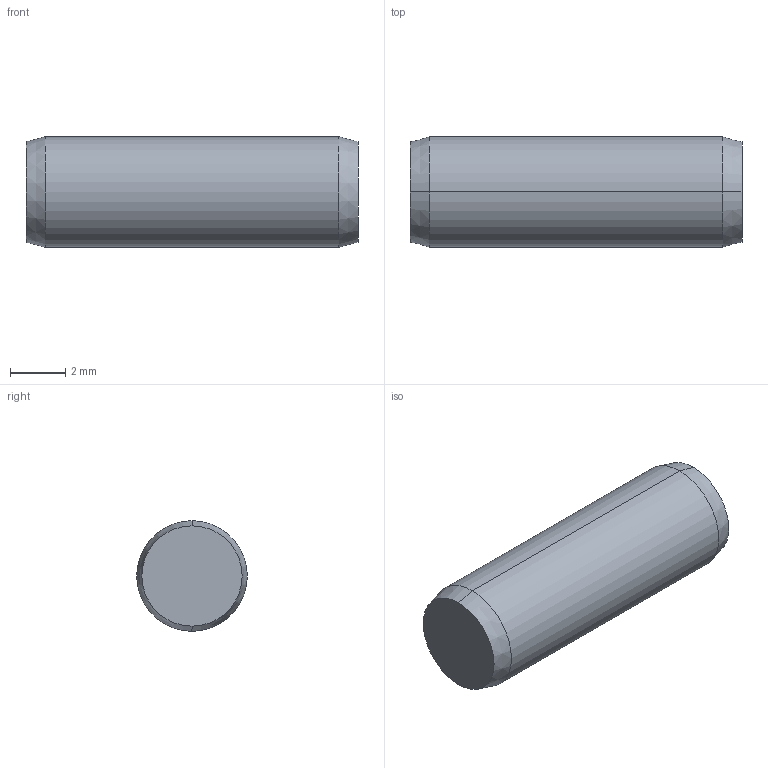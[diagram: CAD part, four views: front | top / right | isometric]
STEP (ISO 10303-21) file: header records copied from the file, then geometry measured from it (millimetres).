
FILE_DESCRIPTION (( 'STEP AP203' ), '1' );
FILE_NAME ('P1206.040-012.step', '2017-06-14T08:09:19', ( 'User' ), ( '' ), 'SwSTEP 2.0', 'SolidWorks 2009', '' );
FILE_SCHEMA (( 'CONFIG_CONTROL_DESIGN' ));
Length unit declared in the file: millimetre
Products named in the file (1): P1206.040-012
Bounding box: 12 x 4 x 4 mm (x, y, z)
Volume: 149.2 mm3; surface area: 171.2 mm2
Topology: 1 solids, 1 shells, 8 faces, 14 edges, 8 vertices
Faces by surface type: cone 4, cylinder 2, plane 2
Entity records: 271 total; most frequent: DIRECTION 40, CARTESIAN_POINT 31, ORIENTED_EDGE 28, AXIS2_PLACEMENT_3D 17, EDGE_CURVE 14, EDGE_LOOP 8, ADVANCED_FACE 8, VERTEX_POINT 8
